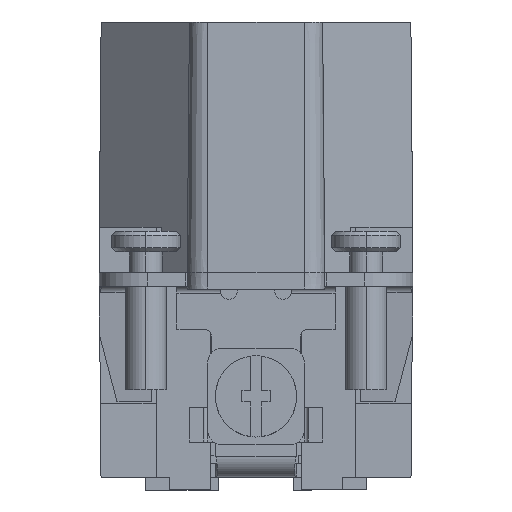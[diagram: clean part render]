
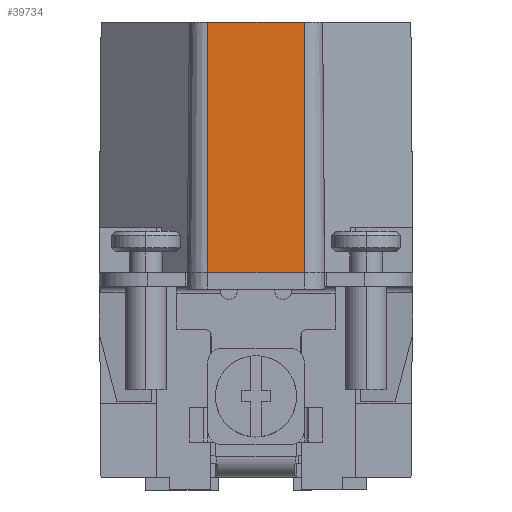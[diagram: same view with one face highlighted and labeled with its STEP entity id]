
A CAD part, left-side view. The second image highlights one B-rep face of the part: STEP entity #39734.
In plain terms, the highlighted planar face has unit normal (-1, 0, 0.009).
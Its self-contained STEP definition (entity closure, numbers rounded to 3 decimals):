
#884 = CARTESIAN_POINT ( 'NONE',  ( -36.25, 3.5, -18.2 ) ) ;
#3791 = CARTESIAN_POINT ( 'NONE',  ( -36.25, 3.5, -18.2 ) ) ;
#7046 = LINE ( 'NONE', #884, #47674 ) ;
#9758 = LINE ( 'NONE', #26173, #30592 ) ;
#10249 = DIRECTION ( 'NONE',  ( -1., 0., 0.009 ) ) ;
#10490 = ORIENTED_EDGE ( 'NONE', *, *, #58986, .F. ) ;
#10867 = CARTESIAN_POINT ( 'NONE',  ( -36.091, 3.5, 0. ) ) ;
#13947 = FACE_OUTER_BOUND ( 'NONE', #48126, .T. ) ;
#14601 = VERTEX_POINT ( 'NONE', #60290 ) ;
#15106 = VERTEX_POINT ( 'NONE', #39800 ) ;
#15203 = EDGE_CURVE ( 'NONE', #77812, #14601, #48687, .T. ) ;
#18581 = DIRECTION ( 'NONE',  ( 0., -1., 0. ) ) ;
#26173 = CARTESIAN_POINT ( 'NONE',  ( -36.091, 0., 0. ) ) ;
#28904 = VECTOR ( 'NONE', #54063, 1000. ) ;
#29803 = PLANE ( 'NONE',  #82687 ) ;
#30592 = VECTOR ( 'NONE', #18581, 1000. ) ;
#33023 = DIRECTION ( 'NONE',  ( 0., -1., 0. ) ) ;
#39734 = ADVANCED_FACE ( 'NONE', ( #13947 ), #29803, .T. ) ;
#39800 = CARTESIAN_POINT ( 'NONE',  ( -36.091, -3.5, 0. ) ) ;
#41573 = CARTESIAN_POINT ( 'NONE',  ( -36.25, -3.5, -18.2 ) ) ;
#47674 = VECTOR ( 'NONE', #33023, 1000. ) ;
#48126 = EDGE_LOOP ( 'NONE', ( #52151, #77573, #10490, #80161 ) ) ;
#48687 = LINE ( 'NONE', #80544, #28904 ) ;
#51630 = EDGE_CURVE ( 'NONE', #15106, #72767, #63326, .T. ) ;
#52151 = ORIENTED_EDGE ( 'NONE', *, *, #79773, .T. ) ;
#54063 = DIRECTION ( 'NONE',  ( -0.009, 0., -1. ) ) ;
#56934 = CARTESIAN_POINT ( 'NONE',  ( -4390.798, -3.5, -499000. ) ) ;
#58986 = EDGE_CURVE ( 'NONE', #77812, #15106, #9758, .T. ) ;
#60290 = CARTESIAN_POINT ( 'NONE',  ( -36.25, 3.5, -18.2 ) ) ;
#63326 = LINE ( 'NONE', #56934, #74766 ) ;
#63598 = DIRECTION ( 'NONE',  ( 0.009, 0., 1. ) ) ;
#64511 = DIRECTION ( 'NONE',  ( -0.009, 0., -1. ) ) ;
#72767 = VERTEX_POINT ( 'NONE', #41573 ) ;
#74766 = VECTOR ( 'NONE', #64511, 1000. ) ;
#77573 = ORIENTED_EDGE ( 'NONE', *, *, #51630, .F. ) ;
#77812 = VERTEX_POINT ( 'NONE', #10867 ) ;
#79773 = EDGE_CURVE ( 'NONE', #14601, #72767, #7046, .T. ) ;
#80161 = ORIENTED_EDGE ( 'NONE', *, *, #15203, .T. ) ;
#80544 = CARTESIAN_POINT ( 'NONE',  ( -36.25, 3.5, -18.2 ) ) ;
#82687 = AXIS2_PLACEMENT_3D ( 'NONE', #3791, #10249, #63598 ) ;
